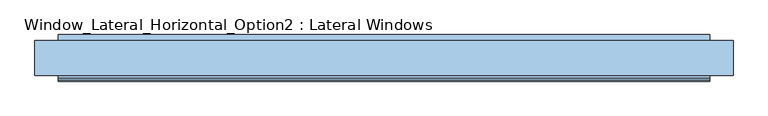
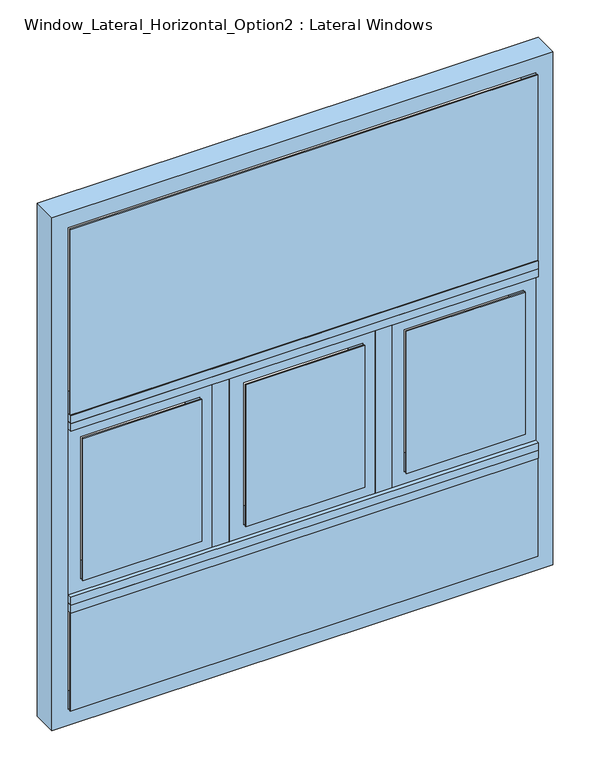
"""IFC4 building model written with IfcOpenShell, lengths in millimetres: window geometry, Window_Lateral_Horizontal_Option2 : Lateral Windows."""

import ifcopenshell
import ifcopenshell.guid

model = None  # the IFC model being written
_history = None  # IfcOwnerHistory: only IFC2X3 demands one
_inside = {}  # id of a spatial element -> (the spatial element, [elements in it])
_under = {}  # id of a project, library or spatial element -> (it, [spatial elements below it])
_declared = {}  # id of a project -> (the project, [libraries it declares])
_typed = {}  # id of a type object -> (the type object, [elements of that type])
_made_of = {}  # id of a material, layer set ... -> (it, [elements and type objects made of it])


def new_model(schema):
    """Start an empty IFC model of exactly this schema.

    Asked for "IFC4X3", IfcOpenShell would pick the latest addendum, in which some entities
    have other attributes; the version numbers below select the first issue.
    IFC2X3 requires an IfcOwnerHistory on every rooted entity: one is made here for all.
    """
    global model, _history
    if schema == "IFC4X3":
        model = ifcopenshell.file(schema_version=(4, 3, 0, 0))
    else:
        model = ifcopenshell.file(schema=schema)
    _inside.clear()
    _under.clear()
    _declared.clear()
    _typed.clear()
    _made_of.clear()
    _history = None
    if model.schema == "IFC2X3":
        org = make("IfcOrganization", Name="unknown")
        user = make(
            "IfcPersonAndOrganization",
            ThePerson=make("IfcPerson", FamilyName="unknown"),
            TheOrganization=org,
        )
        app = make(
            "IfcApplication",
            ApplicationDeveloper=org,
            Version="unknown",
            ApplicationFullName="unknown",
            ApplicationIdentifier="unknown",
        )
        _history = make(
            "IfcOwnerHistory",
            OwningUser=user,
            OwningApplication=app,
            ChangeAction="ADDED",
            CreationDate=0,
        )
    return model


def make(cls, **values):
    """One entity of the class cls with the attributes given. An attribute that is None is left unset."""
    return model.create_entity(
        cls, **{name: value for name, value in values.items() if value is not None}
    )


def rooted(cls, **values):
    """An entity with a GlobalId (a new one), such as an element, a storey or a relation."""
    return make(cls, GlobalId=ifcopenshell.guid.new(), OwnerHistory=_history, **values)


def si_unit(unit_type, name, prefix=None):
    """IfcSIUnit, for example si_unit("LENGTHUNIT", "METRE", prefix="MILLI")."""
    return make("IfcSIUnit", UnitType=unit_type, Prefix=prefix, Name=name)


def assignment(units):
    """IfcUnitAssignment: the units of a project."""
    return None if units is None else make("IfcUnitAssignment", Units=units)


def point(xyz):
    """IfcCartesianPoint."""
    return None if xyz is None else make("IfcCartesianPoint", Coordinates=xyz)


def direction(xyz):
    """IfcDirection."""
    return None if xyz is None else make("IfcDirection", DirectionRatios=xyz)


def frame(location, z_axis=None, x_axis=None):
    """IfcAxis2Placement3D, a coordinate frame: its origin and axes. An axis left out is left unset."""
    return make(
        "IfcAxis2Placement3D",
        Location=point(location),
        Axis=direction(z_axis),
        RefDirection=direction(x_axis),
    )


def origin():
    """The frame at (0, 0, 0) with its axes left unset."""
    return frame((0.0, 0.0, 0.0))


def place(relative_to, where):
    """IfcLocalPlacement: puts the frame where relative to a parent placement (None: the world)."""
    return make(
        "IfcLocalPlacement", PlacementRelTo=relative_to, RelativePlacement=where
    )


def context(
    kind, dimensions, precision=None, world=None, true_north=None, identifier=None
):
    """IfcGeometricRepresentationContext, for example the 3D "Model" context."""
    return make(
        "IfcGeometricRepresentationContext",
        ContextIdentifier=identifier,
        ContextType=kind,
        CoordinateSpaceDimension=dimensions,
        Precision=precision,
        WorldCoordinateSystem=world,
        TrueNorth=true_north,
    )


def project(units=None, contexts=None):
    """IfcProject with its units and contexts."""
    return rooted(
        "IfcProject",
        Name="project",
        RepresentationContexts=contexts,
        UnitsInContext=assignment(units),
    )


def spatial(cls, under=None, at=None, **own):
    """A site, building, storey or space (cls), placed at a placement, below another one or the project."""
    s = rooted(cls, ObjectPlacement=at, **own)
    if under is not None:
        _under.setdefault(under.id(), (under, []))[1].append(s)
    return s


def polyline(points):
    """IfcPolyline through the points."""
    return make("IfcPolyline", Points=[point(p) for p in points])


def outline(outer, holes=None, kind="AREA"):
    """IfcArbitraryClosedProfileDef: a profile drawn as a closed curve; with holes, ...WithVoids."""
    if holes is None:
        return make("IfcArbitraryClosedProfileDef", ProfileType=kind, OuterCurve=outer)
    return make(
        "IfcArbitraryProfileDefWithVoids",
        ProfileType=kind,
        OuterCurve=outer,
        InnerCurves=holes,
    )


def extrude(swept, where, along, depth):
    """IfcExtrudedAreaSolid: the profile swept, set in the frame where, extruded along a direction by depth."""
    return make(
        "IfcExtrudedAreaSolid",
        SweptArea=swept,
        Position=where,
        ExtrudedDirection=direction(along),
        Depth=depth,
    )


def shape(context_of_items, identifier, shape_type, items):
    """IfcShapeRepresentation: the items that make up one representation, for example the "Body"."""
    return make(
        "IfcShapeRepresentation",
        ContextOfItems=context_of_items,
        RepresentationIdentifier=identifier,
        RepresentationType=shape_type,
        Items=items,
    )


def source(mapping_origin, context_of_items, identifier, shape_type, items):
    """IfcRepresentationMap: a shape defined once, which mapped items show again and again."""
    return make(
        "IfcRepresentationMap",
        MappingOrigin=mapping_origin,
        MappedRepresentation=shape(context_of_items, identifier, shape_type, items),
    )


def transform(
    local_origin,
    x_axis=None,
    y_axis=None,
    z_axis=None,
    scale=None,
    scale2=None,
    scale3=None,
    uniform=True,
):
    """IfcCartesianTransformationOperator3D, or its non-uniform kind. x_axis, y_axis, z_axis: its Axis1, 2, 3."""
    if uniform:
        return make(
            "IfcCartesianTransformationOperator3D",
            Axis1=direction(x_axis),
            Axis2=direction(y_axis),
            LocalOrigin=point(local_origin),
            Scale=scale,
            Axis3=direction(z_axis),
        )
    return make(
        "IfcCartesianTransformationOperator3DnonUniform",
        Axis1=direction(x_axis),
        Axis2=direction(y_axis),
        LocalOrigin=point(local_origin),
        Scale=scale,
        Axis3=direction(z_axis),
        Scale2=scale2,
        Scale3=scale3,
    )


def mapped(mapping_source, mapping_target):
    """IfcMappedItem: shows the shape of a source again, moved by a transform."""
    return make(
        "IfcMappedItem", MappingSource=mapping_source, MappingTarget=mapping_target
    )


def made_of(thing, what):
    """Note that an element or type object is made of a material, layer set ...; save() writes the relation."""
    if what is not None:
        _made_of.setdefault(what.id(), (what, []))[1].append(thing)
    return thing


def element(
    cls,
    number,
    at=None,
    inside=None,
    cuts=None,
    type_object=None,
    material=None,
    context=None,
    identifier="Body",
    shape_type=None,
    held_by="IfcProductDefinitionShape",
    body=None,
    shapes=None,
    **own,
):
    """One element of the class cls, such as IfcWall. Its Tag is "e" and its number.

    at: its placement. inside: the storey or other place that contains it. cuts: it is an
    opening in that element (IfcRelVoidsElement). A single representation is given by context,
    identifier, shape_type and body (its items); several are given by shapes. held_by: the class
    of the entity that holds the representations. save() writes the other relations.
    """
    e = rooted(cls, Tag="e%d" % number, ObjectPlacement=at, **own)
    if body is not None:
        shapes = [shape(context, identifier, shape_type, body)]
    if shapes is not None:
        e.Representation = make(held_by, Representations=shapes)
    if inside is not None:
        _inside.setdefault(inside.id(), (inside, []))[1].append(e)
    if cuts is not None:
        rooted(
            "IfcRelVoidsElement", RelatingBuildingElement=cuts, RelatedOpeningElement=e
        )
    if type_object is not None:
        _typed.setdefault(type_object.id(), (type_object, []))[1].append(e)
    return made_of(e, material)


def aggregate(whole, parts):
    """IfcRelAggregates: a whole, such as a stair, and the parts it consists of."""
    return rooted("IfcRelAggregates", RelatingObject=whole, RelatedObjects=parts)


def save(model, path):
    """Write the relations noted so far, then the file.

    IfcRelAggregates (storeys below a building ...), IfcRelContainedInSpatialStructure (elements
    in a storey), IfcRelDefinesByType, IfcRelAssociatesMaterial and IfcRelDeclares: one each for
    every whole, place, type object, material and project.
    """
    for whole, parts in _under.values():
        aggregate(whole, parts)
    for where, things in _inside.values():
        rooted(
            "IfcRelContainedInSpatialStructure",
            RelatedElements=things,
            RelatingStructure=where,
        )
    for kind, things in _typed.values():
        rooted("IfcRelDefinesByType", RelatedObjects=things, RelatingType=kind)
    for what, things in _made_of.values():
        rooted("IfcRelAssociatesMaterial", RelatedObjects=things, RelatingMaterial=what)
    for by, libraries in _declared.values():
        rooted("IfcRelDeclares", RelatingContext=by, RelatedDefinitions=libraries)
    model.write(path)


def window_lateral_horizontal_option2_lateral_windows_3115a414(model_context):
    return source(origin(), model_context, "Body", "SweptSolid", [
        extrude(outline(polyline([(914.4, 1524.0), (4216.4, 1524.0), (4216.4, -1524.0), (914.4, -1524.0), (914.4, 1524.0)]), holes=[polyline([(4114.8, 1422.4), (1016.0, 1422.4), (1016.0, -1422.4), (4114.8, -1422.4), (4114.8, 1422.4)])]), frame((0.0, -76.2, 0.0), z_axis=(0.0, 1.0, 0.0), x_axis=(0.0, 0.0, 1.0)), (0.0, 0.0, 1.0), 152.4),
        extrude(outline(polyline([(-1422.4, 101.6), (1422.4, 101.6), (1422.4, -101.6), (-1422.4, -101.6), (-1422.4, 101.6)])), frame((0.0, 0.0, 2870.2), z_axis=(0.0, 0.0, 1.0), x_axis=(1.0, 0.0, 0.0)), (0.0, 0.0, 1.0), 50.8),
        extrude(outline(polyline([(-1422.4, 101.6), (1422.4, 101.6), (1422.4, -101.6), (-1422.4, -101.6), (-1422.4, 101.6)])), frame((0.0, 0.0, 1701.8), z_axis=(0.0, 0.0, 1.0), x_axis=(1.0, 0.0, 0.0)), (0.0, 0.0, 1.0), 50.8),
        extrude(outline(polyline([(-1422.4, 101.6), (1422.4, 101.6), (1422.4, -101.6), (-1422.4, -101.6), (-1422.4, 101.6)])), frame((0.0, 0.0, 2819.4), z_axis=(0.0, 0.0, 1.0), x_axis=(1.0, 0.0, 0.0)), (0.0, 0.0, 1.0), 50.8),
        extrude(outline(polyline([(-1422.4, 101.6), (1422.4, 101.6), (1422.4, -101.6), (-1422.4, -101.6), (-1422.4, 101.6)])), frame((0.0, 0.0, 1651.0), z_axis=(0.0, 0.0, 1.0), x_axis=(1.0, 0.0, 0.0)), (0.0, 0.0, 1.0), 50.8),
        extrude(outline(polyline([(546.3453728, 76.2), (546.3453728, -76.2), (444.7453728, -76.2), (444.7453728, 76.2), (546.3453728, 76.2)])), frame((0.0, 0.0, 1752.6), z_axis=(0.0, 0.0, 1.0), x_axis=(1.0, 0.0, 0.0)), (0.0, 0.0, 1.0), 1066.8),
        extrude(outline(polyline([(-444.7453728, 76.2), (-444.7453728, -76.2), (-546.3453728, -76.2), (-546.3453728, 76.2), (-444.7453728, 76.2)])), frame((0.0, 0.0, 1752.6), z_axis=(0.0, 0.0, 1.0), x_axis=(1.0, 0.0, 0.0)), (0.0, 0.0, 1.0), 1066.8),
        extrude(outline(polyline([(1752.6, 1422.4), (2819.4, 1422.4), (2819.4, 546.3453728), (1752.6, 546.3453728), (1752.6, 1422.4)]), holes=[polyline([(1828.8, 1346.2), (1828.8, 622.5453728), (2743.2, 622.5453728), (2743.2, 1346.2), (1828.8, 1346.2)])]), frame((0.0, -76.2, 0.0), z_axis=(0.0, 1.0, 0.0), x_axis=(0.0, 0.0, 1.0)), (0.0, 0.0, 1.0), 152.4),
        extrude(outline(polyline([(1752.6, 444.7453728), (2819.4, 444.7453728), (2819.4, -444.7453728), (1752.6, -444.7453728), (1752.6, 444.7453728)]), holes=[polyline([(1828.8, 368.5453728), (1828.8, -355.1092545), (2743.2, -355.1092545), (2743.2, 368.5453728), (1828.8, 368.5453728)])]), frame((0.0, -76.2, 0.0), z_axis=(0.0, 1.0, 0.0), x_axis=(0.0, 0.0, 1.0)), (0.0, 0.0, 1.0), 152.4),
        extrude(outline(polyline([(1752.6, -546.3453728), (2819.4, -546.3453728), (2819.4, -1422.4), (1752.6, -1422.4), (1752.6, -546.3453728)]), holes=[polyline([(1828.8, -622.5453728), (1828.8, -1346.2), (2743.2, -1346.2), (2743.2, -622.5453728), (1828.8, -622.5453728)])]), frame((0.0, -76.2, 0.0), z_axis=(0.0, 1.0, 0.0), x_axis=(0.0, 0.0, 1.0)), (0.0, 0.0, 1.0), 152.4),
        extrude(outline(polyline([(-622.5453728, -95.25), (-1346.2, -95.25), (-1346.2, -88.9), (-622.5453728, -88.9), (-622.5453728, -95.25)])), frame((0.0, 0.0, 1828.8), z_axis=(0.0, 0.0, 1.0), x_axis=(1.0, 0.0, 0.0)), (0.0, 0.0, 1.0), 914.4),
        extrude(outline(polyline([(368.5453728, -95.25), (-355.1092545, -95.25), (-355.1092545, -88.9), (368.5453728, -88.9), (368.5453728, -95.25)])), frame((0.0, 0.0, 1828.8), z_axis=(0.0, 0.0, 1.0), x_axis=(1.0, 0.0, 0.0)), (0.0, 0.0, 1.0), 914.4),
        extrude(outline(polyline([(1346.2, -95.25), (622.5453728, -95.25), (622.5453728, -88.9), (1346.2, -88.9), (1346.2, -95.25)])), frame((0.0, 0.0, 1828.8), z_axis=(0.0, 0.0, 1.0), x_axis=(1.0, 0.0, 0.0)), (0.0, 0.0, 1.0), 914.4),
        extrude(outline(polyline([(1422.4, -95.25), (-1422.4, -95.25), (-1422.4, -88.9), (1422.4, -88.9), (1422.4, -95.25)])), frame((0.0, 0.0, 1016.0), z_axis=(0.0, 0.0, 1.0), x_axis=(1.0, 0.0, 0.0)), (0.0, 0.0, 1.0), 635.0),
        extrude(outline(polyline([(1422.4, -95.25), (-1422.4, -95.25), (-1422.4, -88.9), (1422.4, -88.9), (1422.4, -95.25)])), frame((0.0, 0.0, 2921.0), z_axis=(0.0, 0.0, 1.0), x_axis=(1.0, 0.0, 0.0)), (0.0, 0.0, 1.0), 1193.8),
    ])


if __name__ == "__main__":
    model = new_model("IFC4")
    model_context = context("Model", 3, world=origin())
    ifc_project = project(units=[si_unit("LENGTHUNIT", "METRE", prefix="MILLI")], contexts=[model_context])
    site = spatial("IfcSite", under=ifc_project)
    building = spatial("IfcBuilding", under=site)
    placement = place(None, origin())
    window_lateral_horizontal_option2_lateral_windows_shape = window_lateral_horizontal_option2_lateral_windows_3115a414(model_context)
    element("IfcWindow", 1, ObjectType="Window_Lateral_Horizontal_Option2 : Lateral Windows", at=placement, inside=building, context=model_context, shape_type="MappedRepresentation", body=[
        mapped(window_lateral_horizontal_option2_lateral_windows_shape, transform((0.0, 0.0, 0.0), x_axis=(1.0, 0.0, 0.0), y_axis=(0.0, 1.0, 0.0), z_axis=(0.0, 0.0, 1.0))),
    ])
    save(model, "model.ifc")
